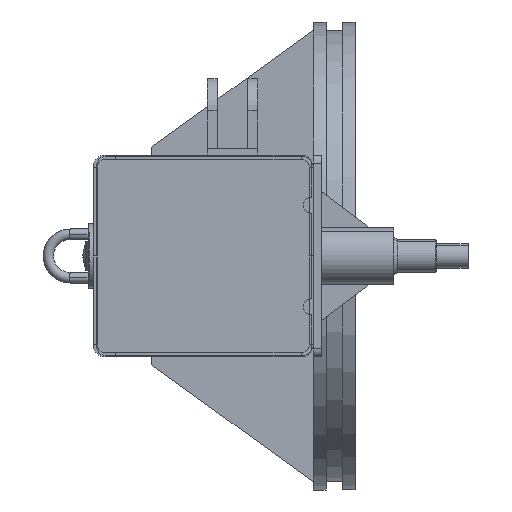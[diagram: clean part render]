
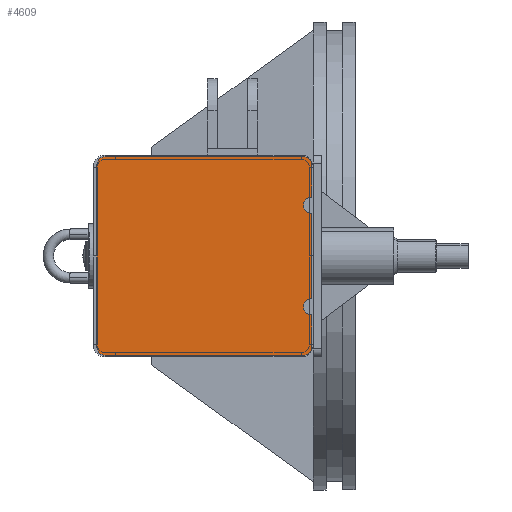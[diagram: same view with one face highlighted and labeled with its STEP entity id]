
A CAD part, left-side view. The second image highlights one B-rep face of the part: STEP entity #4609.
In plain terms, the highlighted planar face has unit normal (-1, 0, 0).
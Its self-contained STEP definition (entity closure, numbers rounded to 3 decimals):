
#232 = EDGE_CURVE ( 'NONE', #10801, #6341, #2481, .T. ) ;
#286 = EDGE_CURVE ( 'NONE', #8587, #10198, #4853, .T. ) ;
#645 = FACE_OUTER_BOUND ( 'NONE', #2856, .T. ) ;
#670 = CARTESIAN_POINT ( 'NONE',  ( -1535., 449., -118. ) ) ;
#852 = ORIENTED_EDGE ( 'NONE', *, *, #2764, .T. ) ;
#949 = VERTEX_POINT ( 'NONE', #2560 ) ;
#962 = CARTESIAN_POINT ( 'NONE',  ( -1535., 183., 68. ) ) ;
#1091 = ORIENTED_EDGE ( 'NONE', *, *, #2050, .T. ) ;
#1106 = DIRECTION ( 'NONE',  ( 0., 1., 0. ) ) ;
#1270 = CARTESIAN_POINT ( 'NONE',  ( -1535., 183., -5. ) ) ;
#1383 = CARTESIAN_POINT ( 'NONE',  ( -1535., 183., -5. ) ) ;
#1431 = VERTEX_POINT ( 'NONE', #962 ) ;
#1813 = DIRECTION ( 'NONE',  ( 0., 0., -1. ) ) ;
#1852 = CARTESIAN_POINT ( 'NONE',  ( -1535., 449., -5. ) ) ;
#1977 = DIRECTION ( 'NONE',  ( -1., 0., 0. ) ) ;
#1992 = DIRECTION ( 'NONE',  ( -1., 0., 0. ) ) ;
#2050 = EDGE_CURVE ( 'NONE', #4900, #5339, #7410, .T. ) ;
#2176 = DIRECTION ( 'NONE',  ( -1., 0., 0. ) ) ;
#2306 = LINE ( 'NONE', #1270, #9287 ) ;
#2364 = CARTESIAN_POINT ( 'NONE',  ( -1535., 439., -118. ) ) ;
#2402 = CARTESIAN_POINT ( 'NONE',  ( -1535., 311., -128. ) ) ;
#2439 = DIRECTION ( 'NONE',  ( 0., -1., 0. ) ) ;
#2444 = DIRECTION ( 'NONE',  ( 0., 1., 0. ) ) ;
#2481 = CIRCLE ( 'NONE', #4282, 10. ) ;
#2531 = CARTESIAN_POINT ( 'NONE',  ( -1535., 439., 108. ) ) ;
#2560 = CARTESIAN_POINT ( 'NONE',  ( -1535., 183., 48. ) ) ;
#2764 = EDGE_CURVE ( 'NONE', #6341, #4516, #9499, .T. ) ;
#2856 = EDGE_LOOP ( 'NONE', ( #7837, #8455, #9144, #7481, #1091, #9896, #10308, #852, #3454, #7571, #10354, #4392 ) ) ;
#3081 = AXIS2_PLACEMENT_3D ( 'NONE', #4477, #5318, #4557 ) ;
#3308 = CARTESIAN_POINT ( 'NONE',  ( -1535., 449., 108. ) ) ;
#3350 = DIRECTION ( 'NONE',  ( -1., 0., 0. ) ) ;
#3454 = ORIENTED_EDGE ( 'NONE', *, *, #6734, .T. ) ;
#3463 = DIRECTION ( 'NONE',  ( 0., 1., 0. ) ) ;
#3582 = VECTOR ( 'NONE', #2439, 1000. ) ;
#3701 = CARTESIAN_POINT ( 'NONE',  ( -1535., 183., -78. ) ) ;
#3896 = DIRECTION ( 'NONE',  ( 0., 0., 1. ) ) ;
#4079 = AXIS2_PLACEMENT_3D ( 'NONE', #8177, #2176, #3896 ) ;
#4282 = AXIS2_PLACEMENT_3D ( 'NONE', #2364, #9104, #2444 ) ;
#4392 = ORIENTED_EDGE ( 'NONE', *, *, #9915, .T. ) ;
#4477 = CARTESIAN_POINT ( 'NONE',  ( -1535., 193., 108. ) ) ;
#4516 = VERTEX_POINT ( 'NONE', #4600 ) ;
#4557 = DIRECTION ( 'NONE',  ( 0., 1., 0. ) ) ;
#4600 = CARTESIAN_POINT ( 'NONE',  ( -1535., 193., -128. ) ) ;
#4609 = ADVANCED_FACE ( 'NONE', ( #645 ), #7180, .T. ) ;
#4853 = CIRCLE ( 'NONE', #3081, 10. ) ;
#4900 = VERTEX_POINT ( 'NONE', #5092 ) ;
#4977 = AXIS2_PLACEMENT_3D ( 'NONE', #9645, #8907, #8868 ) ;
#5070 = EDGE_CURVE ( 'NONE', #8318, #8258, #5517, .T. ) ;
#5092 = CARTESIAN_POINT ( 'NONE',  ( -1535., 439., 118. ) ) ;
#5318 = DIRECTION ( 'NONE',  ( -1., 0., 0. ) ) ;
#5339 = VERTEX_POINT ( 'NONE', #3308 ) ;
#5517 = LINE ( 'NONE', #6388, #5779 ) ;
#5523 = VECTOR ( 'NONE', #10742, 1000. ) ;
#5779 = VECTOR ( 'NONE', #6350, 1000. ) ;
#5787 = LINE ( 'NONE', #1383, #5523 ) ;
#5887 = CIRCLE ( 'NONE', #4977, 10. ) ;
#6110 = EDGE_CURVE ( 'NONE', #1431, #949, #9703, .T. ) ;
#6127 = DIRECTION ( 'NONE',  ( 0., 0., 1. ) ) ;
#6129 = EDGE_CURVE ( 'NONE', #10198, #4900, #8518, .T. ) ;
#6246 = CARTESIAN_POINT ( 'NONE',  ( -1535., 183., -118. ) ) ;
#6300 = VECTOR ( 'NONE', #1106, 1000. ) ;
#6341 = VERTEX_POINT ( 'NONE', #10646 ) ;
#6350 = DIRECTION ( 'NONE',  ( 0., 0., 1. ) ) ;
#6388 = CARTESIAN_POINT ( 'NONE',  ( -1535., 183., -5. ) ) ;
#6432 = AXIS2_PLACEMENT_3D ( 'NONE', #7073, #1992, #7900 ) ;
#6617 = VERTEX_POINT ( 'NONE', #10446 ) ;
#6734 = EDGE_CURVE ( 'NONE', #4516, #8318, #5887, .T. ) ;
#7073 = CARTESIAN_POINT ( 'NONE',  ( -1535., 0., 0. ) ) ;
#7180 = PLANE ( 'NONE',  #6432 ) ;
#7232 = EDGE_CURVE ( 'NONE', #5339, #10801, #10084, .T. ) ;
#7410 = CIRCLE ( 'NONE', #10862, 10. ) ;
#7481 = ORIENTED_EDGE ( 'NONE', *, *, #6129, .T. ) ;
#7505 = EDGE_CURVE ( 'NONE', #1431, #8587, #2306, .T. ) ;
#7571 = ORIENTED_EDGE ( 'NONE', *, *, #5070, .T. ) ;
#7821 = CARTESIAN_POINT ( 'NONE',  ( -1535., 183., 58. ) ) ;
#7837 = ORIENTED_EDGE ( 'NONE', *, *, #6110, .F. ) ;
#7895 = CARTESIAN_POINT ( 'NONE',  ( -1535., 193., 118. ) ) ;
#7900 = DIRECTION ( 'NONE',  ( 0., -1., 0. ) ) ;
#8177 = CARTESIAN_POINT ( 'NONE',  ( -1535., 183., -68. ) ) ;
#8220 = CARTESIAN_POINT ( 'NONE',  ( -1535., 183., 108. ) ) ;
#8258 = VERTEX_POINT ( 'NONE', #3701 ) ;
#8318 = VERTEX_POINT ( 'NONE', #6246 ) ;
#8455 = ORIENTED_EDGE ( 'NONE', *, *, #7505, .T. ) ;
#8518 = LINE ( 'NONE', #10310, #6300 ) ;
#8535 = EDGE_CURVE ( 'NONE', #6617, #8258, #10450, .T. ) ;
#8587 = VERTEX_POINT ( 'NONE', #8220 ) ;
#8868 = DIRECTION ( 'NONE',  ( 0., 1., 0. ) ) ;
#8907 = DIRECTION ( 'NONE',  ( -1., 0., 0. ) ) ;
#9104 = DIRECTION ( 'NONE',  ( -1., 0., 0. ) ) ;
#9144 = ORIENTED_EDGE ( 'NONE', *, *, #286, .T. ) ;
#9287 = VECTOR ( 'NONE', #9702, 1000. ) ;
#9499 = LINE ( 'NONE', #2402, #3582 ) ;
#9645 = CARTESIAN_POINT ( 'NONE',  ( -1535., 193., -118. ) ) ;
#9702 = DIRECTION ( 'NONE',  ( 0., 0., 1. ) ) ;
#9703 = CIRCLE ( 'NONE', #10258, 10. ) ;
#9896 = ORIENTED_EDGE ( 'NONE', *, *, #7232, .T. ) ;
#9915 = EDGE_CURVE ( 'NONE', #6617, #949, #5787, .T. ) ;
#10084 = LINE ( 'NONE', #1852, #10215 ) ;
#10198 = VERTEX_POINT ( 'NONE', #7895 ) ;
#10215 = VECTOR ( 'NONE', #1813, 1000. ) ;
#10258 = AXIS2_PLACEMENT_3D ( 'NONE', #7821, #1977, #6127 ) ;
#10308 = ORIENTED_EDGE ( 'NONE', *, *, #232, .T. ) ;
#10310 = CARTESIAN_POINT ( 'NONE',  ( -1535., 311., 118. ) ) ;
#10354 = ORIENTED_EDGE ( 'NONE', *, *, #8535, .F. ) ;
#10446 = CARTESIAN_POINT ( 'NONE',  ( -1535., 183., -58. ) ) ;
#10450 = CIRCLE ( 'NONE', #4079, 10. ) ;
#10646 = CARTESIAN_POINT ( 'NONE',  ( -1535., 439., -128. ) ) ;
#10742 = DIRECTION ( 'NONE',  ( 0., 0., 1. ) ) ;
#10801 = VERTEX_POINT ( 'NONE', #670 ) ;
#10862 = AXIS2_PLACEMENT_3D ( 'NONE', #2531, #3350, #3463 ) ;
